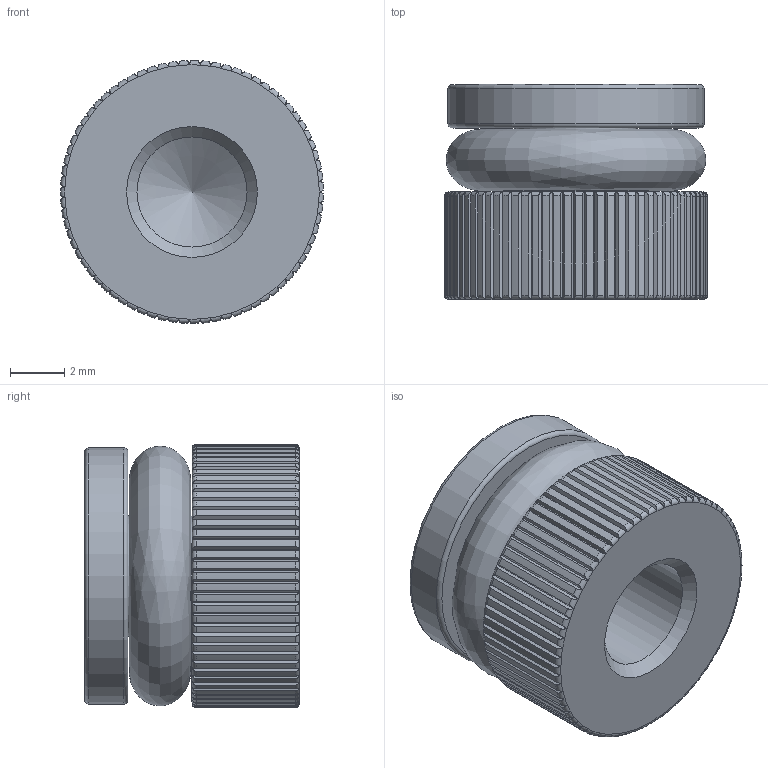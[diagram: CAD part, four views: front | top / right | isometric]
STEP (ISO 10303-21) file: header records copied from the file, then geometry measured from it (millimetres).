
FILE_DESCRIPTION(/* description */ (''),/* implementation_level */ '2;1');
FILE_NAME(/* name */ 'C:/Users/drich/Desktop/TIP-375 v1.step',/* time_stamp */ '2020-01-08T20:02:54-06:00',/* author */ (''),/* organization */ (''),/* preprocessor_version */ 'ST-DEVELOPER v18',/* originating_system */ 'Autodesk Translation Framework v8.12.0.6',/* authorisation */ '');
FILE_SCHEMA (('AUTOMOTIVE_DESIGN { 1 0 10303 214 3 1 1 }'));
Length unit declared in the file: inch
Products named in the file (1): TIP-375
Bounding box: 9.7 x 7.92 x 9.7 mm (x, y, z)
Volume: 471.3 mm3; surface area: 720.3 mm2
Topology: 2 solids, 2 shells, 239 faces, 709 edges, 474 vertices
Faces by surface type: plane 154, cylinder 78, torus 4, cone 2, bspline 1
Full cylindrical faces by diameter (mm): 4.064 x1, 4.445 x1, 9.449 x1
Entity records: 10229 total; most frequent: CARTESIAN_POINT 4202, ORIENTED_EDGE 1416, DIRECTION 1064, EDGE_CURVE 708, VERTEX_POINT 474, AXIS2_PLACEMENT_3D 417, B_SPLINE_CURVE_WITH_KNOTS 300, EDGE_LOOP 242
